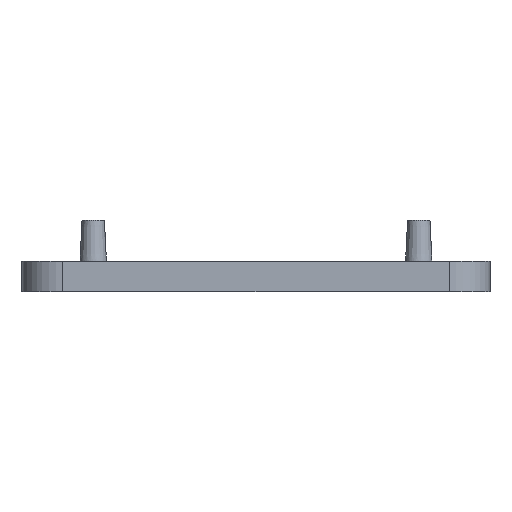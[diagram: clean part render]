
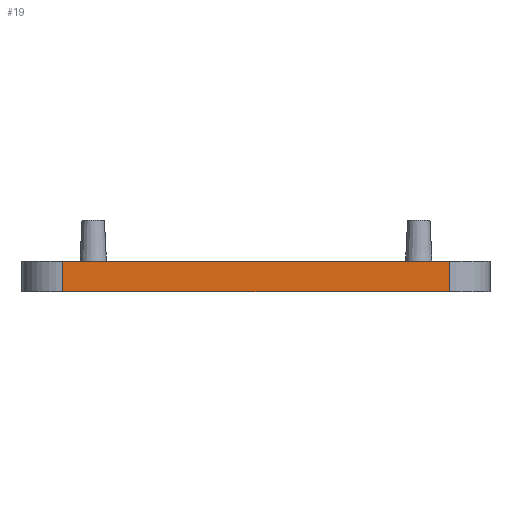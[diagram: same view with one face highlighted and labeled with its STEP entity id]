
A CAD part, front view. The second image highlights one B-rep face of the part: STEP entity #19.
In plain terms, the highlighted planar face has unit normal (0, -1, 0).
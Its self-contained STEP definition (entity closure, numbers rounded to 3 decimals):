
#19 = ADVANCED_FACE ( 'NONE', ( #333 ), #889, .F. ) ;
#54 = VERTEX_POINT ( 'NONE', #855 ) ;
#85 = DIRECTION ( 'NONE',  ( 1., 0., 0. ) ) ;
#124 = VERTEX_POINT ( 'NONE', #702 ) ;
#178 = ORIENTED_EDGE ( 'NONE', *, *, #425, .T. ) ;
#202 = LINE ( 'NONE', #476, #873 ) ;
#205 = CARTESIAN_POINT ( 'NONE',  ( 9.5, -20., 0. ) ) ;
#215 = VECTOR ( 'NONE', #299, 1000. ) ;
#246 = CARTESIAN_POINT ( 'NONE',  ( -11.5, -20., 1.5 ) ) ;
#260 = CARTESIAN_POINT ( 'NONE',  ( 9.5, -20., 1.5 ) ) ;
#265 = CARTESIAN_POINT ( 'NONE',  ( -11.5, -20., 1.5 ) ) ;
#294 = LINE ( 'NONE', #371, #215 ) ;
#299 = DIRECTION ( 'NONE',  ( 0., 0., 1. ) ) ;
#330 = ORIENTED_EDGE ( 'NONE', *, *, #676, .T. ) ;
#332 = DIRECTION ( 'NONE',  ( 0., 0., -1. ) ) ;
#333 = FACE_OUTER_BOUND ( 'NONE', #770, .T. ) ;
#371 = CARTESIAN_POINT ( 'NONE',  ( 9.5, -20., 1.5 ) ) ;
#415 = VERTEX_POINT ( 'NONE', #205 ) ;
#425 = EDGE_CURVE ( 'NONE', #54, #415, #202, .T. ) ;
#468 = DIRECTION ( 'NONE',  ( 0., 0., 1. ) ) ;
#476 = CARTESIAN_POINT ( 'NONE',  ( -11.5, -20., 0. ) ) ;
#495 = DIRECTION ( 'NONE',  ( 1., 0., 0. ) ) ;
#524 = LINE ( 'NONE', #602, #745 ) ;
#602 = CARTESIAN_POINT ( 'NONE',  ( -9.5, -20., 1.5 ) ) ;
#614 = EDGE_CURVE ( 'NONE', #124, #787, #871, .T. ) ;
#624 = EDGE_CURVE ( 'NONE', #415, #787, #294, .T. ) ;
#656 = VECTOR ( 'NONE', #85, 1000. ) ;
#676 = EDGE_CURVE ( 'NONE', #124, #54, #524, .T. ) ;
#702 = CARTESIAN_POINT ( 'NONE',  ( -9.5, -20., 1.5 ) ) ;
#745 = VECTOR ( 'NONE', #332, 1000. ) ;
#762 = ORIENTED_EDGE ( 'NONE', *, *, #614, .F. ) ;
#770 = EDGE_LOOP ( 'NONE', ( #762, #330, #178, #896 ) ) ;
#787 = VERTEX_POINT ( 'NONE', #260 ) ;
#819 = DIRECTION ( 'NONE',  ( 0., 1., 0. ) ) ;
#854 = AXIS2_PLACEMENT_3D ( 'NONE', #265, #819, #468 ) ;
#855 = CARTESIAN_POINT ( 'NONE',  ( -9.5, -20., 0. ) ) ;
#871 = LINE ( 'NONE', #246, #656 ) ;
#873 = VECTOR ( 'NONE', #495, 1000. ) ;
#889 = PLANE ( 'NONE',  #854 ) ;
#896 = ORIENTED_EDGE ( 'NONE', *, *, #624, .T. ) ;
